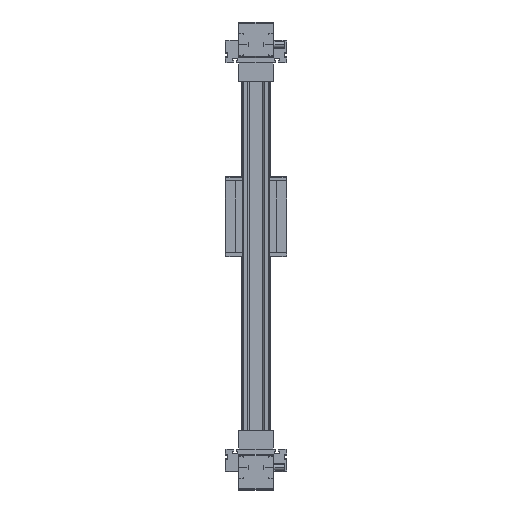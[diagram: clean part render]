
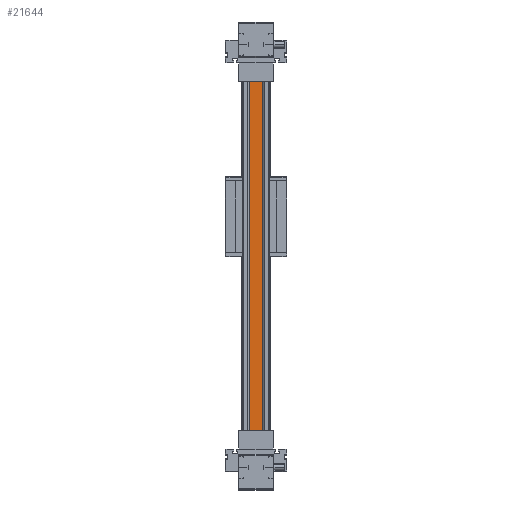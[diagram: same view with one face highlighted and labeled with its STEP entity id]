
A CAD part, front view. The second image highlights one B-rep face of the part: STEP entity #21644.
In plain terms, the highlighted planar face has unit normal (0, -1, 0).
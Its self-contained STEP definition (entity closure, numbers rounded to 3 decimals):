
#908 = DIRECTION ( 'NONE',  ( 0., 0., -1. ) ) ;
#2053 = DIRECTION ( 'NONE',  ( 0., 1., 0. ) ) ;
#2239 = VERTEX_POINT ( 'NONE', #27311 ) ;
#2445 = CARTESIAN_POINT ( 'NONE',  ( 0., 0., 0. ) ) ;
#5449 = LINE ( 'NONE', #24109, #18690 ) ;
#5698 = CARTESIAN_POINT ( 'NONE',  ( 0., 0., -50. ) ) ;
#6365 = VERTEX_POINT ( 'NONE', #18543 ) ;
#6508 = FACE_OUTER_BOUND ( 'NONE', #24090, .T. ) ;
#7127 = CARTESIAN_POINT ( 'NONE',  ( 1312., 0., -50. ) ) ;
#8631 = LINE ( 'NONE', #14022, #21822 ) ;
#8746 = EDGE_CURVE ( 'NONE', #2239, #18023, #5449, .T. ) ;
#11323 = ORIENTED_EDGE ( 'NONE', *, *, #13928, .F. ) ;
#12174 = ORIENTED_EDGE ( 'NONE', *, *, #32940, .F. ) ;
#12496 = CARTESIAN_POINT ( 'NONE',  ( 1312., 0., 0. ) ) ;
#13755 = VERTEX_POINT ( 'NONE', #5698 ) ;
#13928 = EDGE_CURVE ( 'NONE', #2239, #6365, #25860, .T. ) ;
#14022 = CARTESIAN_POINT ( 'NONE',  ( 0., 0., 0. ) ) ;
#15330 = ORIENTED_EDGE ( 'NONE', *, *, #8746, .T. ) ;
#16178 = DIRECTION ( 'NONE',  ( -1., 0., 0. ) ) ;
#18023 = VERTEX_POINT ( 'NONE', #2445 ) ;
#18543 = CARTESIAN_POINT ( 'NONE',  ( 1312., 0., -50. ) ) ;
#18690 = VECTOR ( 'NONE', #16178, 1000. ) ;
#18896 = VECTOR ( 'NONE', #27477, 1000. ) ;
#20473 = DIRECTION ( 'NONE',  ( 0., 0., 1. ) ) ;
#21397 = EDGE_CURVE ( 'NONE', #18023, #13755, #8631, .T. ) ;
#21644 = ADVANCED_FACE ( 'NONE', ( #6508 ), #33581, .F. ) ;
#21822 = VECTOR ( 'NONE', #908, 1000. ) ;
#23015 = LINE ( 'NONE', #7127, #24656 ) ;
#24090 = EDGE_LOOP ( 'NONE', ( #31998, #12174, #11323, #15330 ) ) ;
#24109 = CARTESIAN_POINT ( 'NONE',  ( 1312., 0., 0. ) ) ;
#24434 = AXIS2_PLACEMENT_3D ( 'NONE', #12496, #2053, #20473 ) ;
#24656 = VECTOR ( 'NONE', #28258, 1000. ) ;
#24810 = CARTESIAN_POINT ( 'NONE',  ( 1312., 0., 0. ) ) ;
#25860 = LINE ( 'NONE', #24810, #18896 ) ;
#27311 = CARTESIAN_POINT ( 'NONE',  ( 1312., 0., 0. ) ) ;
#27477 = DIRECTION ( 'NONE',  ( 0., 0., -1. ) ) ;
#28258 = DIRECTION ( 'NONE',  ( -1., 0., 0. ) ) ;
#31998 = ORIENTED_EDGE ( 'NONE', *, *, #21397, .T. ) ;
#32940 = EDGE_CURVE ( 'NONE', #6365, #13755, #23015, .T. ) ;
#33581 = PLANE ( 'NONE',  #24434 ) ;
